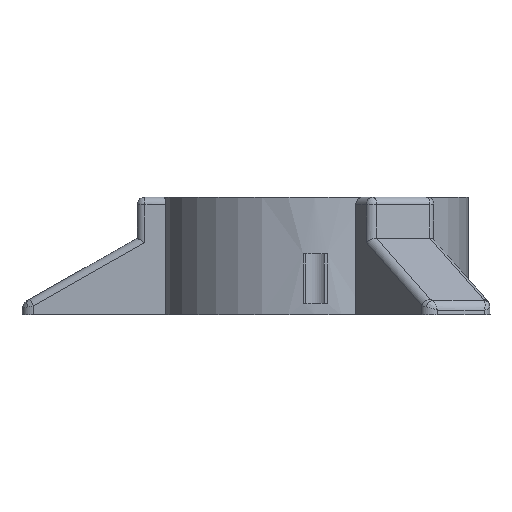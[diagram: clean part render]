
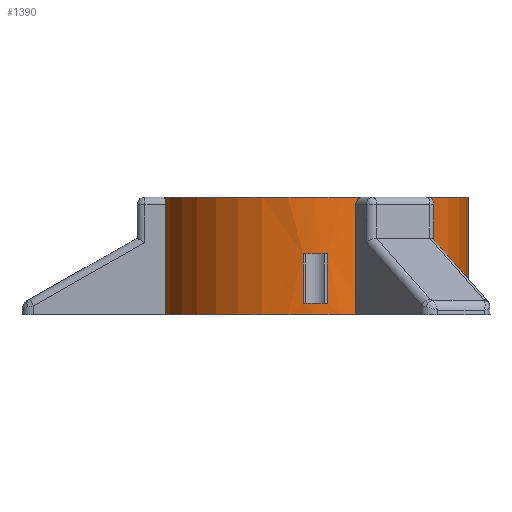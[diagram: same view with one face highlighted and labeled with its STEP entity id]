
A CAD part, left-side view. The second image highlights one B-rep face of the part: STEP entity #1390.
In plain terms, the highlighted cylindrical face has radius 40 mm (diameter 80 mm), a full revolution.
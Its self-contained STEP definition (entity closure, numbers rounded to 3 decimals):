
#166=FACE_OUTER_BOUND('',#244,.T.);
#244=EDGE_LOOP('',(#1276,#1277,#1278,#1279,#1280,#1281,#1282,#1283,#1284,
#1285,#1286,#1287));
#289=CIRCLE('',#1504,40.);
#290=CIRCLE('',#1505,40.);
#291=CIRCLE('',#1507,40.);
#292=CIRCLE('',#1508,40.);
#297=CIRCLE('',#1528,40.);
#298=CIRCLE('',#1529,40.);
#409=LINE('',#2357,#548);
#414=LINE('',#2366,#553);
#436=LINE('',#2426,#575);
#437=LINE('',#2428,#576);
#548=VECTOR('',#1832,10.);
#553=VECTOR('',#1841,10.);
#575=VECTOR('',#1915,40.);
#576=VECTOR('',#1916,40.);
#690=VERTEX_POINT('',#2354);
#691=VERTEX_POINT('',#2356);
#692=VERTEX_POINT('',#2363);
#693=VERTEX_POINT('',#2365);
#694=VERTEX_POINT('',#2369);
#695=VERTEX_POINT('',#2373);
#705=VERTEX_POINT('',#2424);
#706=VERTEX_POINT('',#2427);
#867=EDGE_CURVE('',#691,#690,#409,.T.);
#872=EDGE_CURVE('',#693,#692,#414,.T.);
#874=EDGE_CURVE('',#694,#693,#289,.T.);
#875=EDGE_CURVE('',#690,#694,#290,.T.);
#876=EDGE_CURVE('',#695,#691,#291,.T.);
#877=EDGE_CURVE('',#692,#695,#292,.T.);
#902=EDGE_CURVE('',#705,#705,#297,.T.);
#903=EDGE_CURVE('',#705,#695,#436,.T.);
#904=EDGE_CURVE('',#694,#706,#437,.T.);
#905=EDGE_CURVE('',#706,#706,#298,.T.);
#1276=ORIENTED_EDGE('',*,*,#902,.F.);
#1277=ORIENTED_EDGE('',*,*,#903,.T.);
#1278=ORIENTED_EDGE('',*,*,#876,.T.);
#1279=ORIENTED_EDGE('',*,*,#867,.T.);
#1280=ORIENTED_EDGE('',*,*,#875,.T.);
#1281=ORIENTED_EDGE('',*,*,#904,.T.);
#1282=ORIENTED_EDGE('',*,*,#905,.T.);
#1283=ORIENTED_EDGE('',*,*,#904,.F.);
#1284=ORIENTED_EDGE('',*,*,#874,.T.);
#1285=ORIENTED_EDGE('',*,*,#872,.T.);
#1286=ORIENTED_EDGE('',*,*,#877,.T.);
#1287=ORIENTED_EDGE('',*,*,#903,.F.);
#1324=CYLINDRICAL_SURFACE('',#1527,40.);
#1390=ADVANCED_FACE('',(#166),#1324,.T.);
#1504=AXIS2_PLACEMENT_3D('',#2370,#1845,#1846);
#1505=AXIS2_PLACEMENT_3D('',#2371,#1847,#1848);
#1507=AXIS2_PLACEMENT_3D('',#2374,#1851,#1852);
#1508=AXIS2_PLACEMENT_3D('',#2375,#1853,#1854);
#1527=AXIS2_PLACEMENT_3D('',#2423,#1911,#1912);
#1528=AXIS2_PLACEMENT_3D('',#2425,#1913,#1914);
#1529=AXIS2_PLACEMENT_3D('',#2429,#1917,#1918);
#1832=DIRECTION('',(0.,0.,-1.));
#1841=DIRECTION('',(0.,0.,1.));
#1845=DIRECTION('center_axis',(0.,0.,-1.));
#1846=DIRECTION('ref_axis',(1.,0.,0.));
#1847=DIRECTION('center_axis',(0.,0.,-1.));
#1848=DIRECTION('ref_axis',(1.,0.,0.));
#1851=DIRECTION('center_axis',(0.,0.,1.));
#1852=DIRECTION('ref_axis',(1.,0.,0.));
#1853=DIRECTION('center_axis',(0.,0.,1.));
#1854=DIRECTION('ref_axis',(1.,0.,0.));
#1911=DIRECTION('center_axis',(0.,0.,1.));
#1912=DIRECTION('ref_axis',(1.,0.,0.));
#1913=DIRECTION('center_axis',(0.,0.,1.));
#1914=DIRECTION('ref_axis',(1.,0.,0.));
#1915=DIRECTION('',(0.,0.,-1.));
#1916=DIRECTION('',(0.,0.,-1.));
#1917=DIRECTION('center_axis',(0.,0.,1.));
#1918=DIRECTION('ref_axis',(1.,0.,0.));
#2354=CARTESIAN_POINT('',(-39.864,-3.3,3.));
#2356=CARTESIAN_POINT('',(-39.864,-3.3,15.9));
#2357=CARTESIAN_POINT('',(-39.864,-3.3,0.));
#2363=CARTESIAN_POINT('',(-39.887,3.,15.9));
#2365=CARTESIAN_POINT('',(-39.887,3.,3.));
#2366=CARTESIAN_POINT('',(-39.887,3.,0.));
#2369=CARTESIAN_POINT('',(-40.,0.,3.));
#2370=CARTESIAN_POINT('Origin',(0.,0.,3.));
#2371=CARTESIAN_POINT('Origin',(0.,0.,3.));
#2373=CARTESIAN_POINT('',(-40.,0.,15.9));
#2374=CARTESIAN_POINT('Origin',(0.,0.,15.9));
#2375=CARTESIAN_POINT('Origin',(0.,0.,15.9));
#2423=CARTESIAN_POINT('Origin',(0.,0.,0.));
#2424=CARTESIAN_POINT('',(-40.,0.,30.7));
#2425=CARTESIAN_POINT('Origin',(0.,0.,30.7));
#2426=CARTESIAN_POINT('',(-40.,0.,0.));
#2427=CARTESIAN_POINT('',(-40.,0.,0.));
#2428=CARTESIAN_POINT('',(-40.,0.,0.));
#2429=CARTESIAN_POINT('Origin',(0.,0.,0.));
